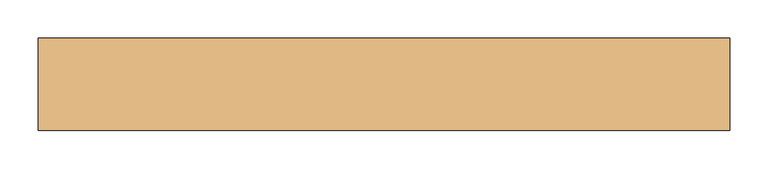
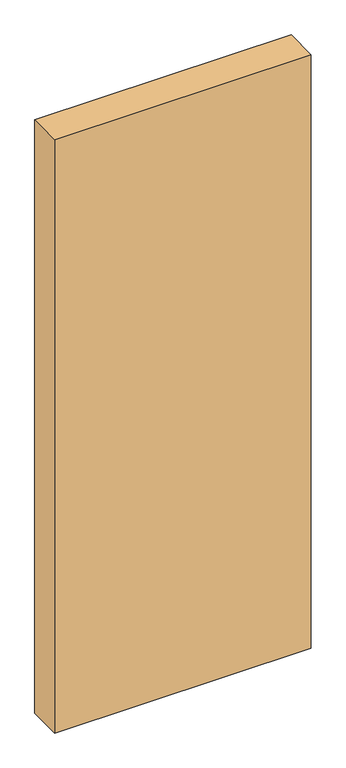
"""IFC4 building model written with IfcOpenShell, lengths in millimetres: door geometry, Dr_Проем-Простой : ДВ."""

import ifcopenshell
import ifcopenshell.guid

model = None  # the IFC model being written
_history = None  # IfcOwnerHistory: only IFC2X3 demands one
_inside = {}  # id of a spatial element -> (the spatial element, [elements in it])
_under = {}  # id of a project, library or spatial element -> (it, [spatial elements below it])
_declared = {}  # id of a project -> (the project, [libraries it declares])
_typed = {}  # id of a type object -> (the type object, [elements of that type])
_made_of = {}  # id of a material, layer set ... -> (it, [elements and type objects made of it])


def new_model(schema):
    """Start an empty IFC model of exactly this schema.

    Asked for "IFC4X3", IfcOpenShell would pick the latest addendum, in which some entities
    have other attributes; the version numbers below select the first issue.
    IFC2X3 requires an IfcOwnerHistory on every rooted entity: one is made here for all.
    """
    global model, _history
    if schema == "IFC4X3":
        model = ifcopenshell.file(schema_version=(4, 3, 0, 0))
    else:
        model = ifcopenshell.file(schema=schema)
    _inside.clear()
    _under.clear()
    _declared.clear()
    _typed.clear()
    _made_of.clear()
    _history = None
    if model.schema == "IFC2X3":
        org = make("IfcOrganization", Name="unknown")
        user = make(
            "IfcPersonAndOrganization",
            ThePerson=make("IfcPerson", FamilyName="unknown"),
            TheOrganization=org,
        )
        app = make(
            "IfcApplication",
            ApplicationDeveloper=org,
            Version="unknown",
            ApplicationFullName="unknown",
            ApplicationIdentifier="unknown",
        )
        _history = make(
            "IfcOwnerHistory",
            OwningUser=user,
            OwningApplication=app,
            ChangeAction="ADDED",
            CreationDate=0,
        )
    return model


def make(cls, **values):
    """One entity of the class cls with the attributes given. An attribute that is None is left unset."""
    return model.create_entity(
        cls, **{name: value for name, value in values.items() if value is not None}
    )


def rooted(cls, **values):
    """An entity with a GlobalId (a new one), such as an element, a storey or a relation."""
    return make(cls, GlobalId=ifcopenshell.guid.new(), OwnerHistory=_history, **values)


def si_unit(unit_type, name, prefix=None):
    """IfcSIUnit, for example si_unit("LENGTHUNIT", "METRE", prefix="MILLI")."""
    return make("IfcSIUnit", UnitType=unit_type, Prefix=prefix, Name=name)


def assignment(units):
    """IfcUnitAssignment: the units of a project."""
    return None if units is None else make("IfcUnitAssignment", Units=units)


def point(xyz):
    """IfcCartesianPoint."""
    return None if xyz is None else make("IfcCartesianPoint", Coordinates=xyz)


def direction(xyz):
    """IfcDirection."""
    return None if xyz is None else make("IfcDirection", DirectionRatios=xyz)


def frame(location, z_axis=None, x_axis=None):
    """IfcAxis2Placement3D, a coordinate frame: its origin and axes. An axis left out is left unset."""
    return make(
        "IfcAxis2Placement3D",
        Location=point(location),
        Axis=direction(z_axis),
        RefDirection=direction(x_axis),
    )


def origin():
    """The frame at (0, 0, 0) with its axes left unset."""
    return frame((0.0, 0.0, 0.0))


def place(relative_to, where):
    """IfcLocalPlacement: puts the frame where relative to a parent placement (None: the world)."""
    return make(
        "IfcLocalPlacement", PlacementRelTo=relative_to, RelativePlacement=where
    )


def context(
    kind, dimensions, precision=None, world=None, true_north=None, identifier=None
):
    """IfcGeometricRepresentationContext, for example the 3D "Model" context."""
    return make(
        "IfcGeometricRepresentationContext",
        ContextIdentifier=identifier,
        ContextType=kind,
        CoordinateSpaceDimension=dimensions,
        Precision=precision,
        WorldCoordinateSystem=world,
        TrueNorth=true_north,
    )


def project(units=None, contexts=None):
    """IfcProject with its units and contexts."""
    return rooted(
        "IfcProject",
        Name="project",
        RepresentationContexts=contexts,
        UnitsInContext=assignment(units),
    )


def spatial(cls, under=None, at=None, **own):
    """A site, building, storey or space (cls), placed at a placement, below another one or the project."""
    s = rooted(cls, ObjectPlacement=at, **own)
    if under is not None:
        _under.setdefault(under.id(), (under, []))[1].append(s)
    return s


def polyline(points):
    """IfcPolyline through the points."""
    return make("IfcPolyline", Points=[point(p) for p in points])


def outline(outer, holes=None, kind="AREA"):
    """IfcArbitraryClosedProfileDef: a profile drawn as a closed curve; with holes, ...WithVoids."""
    if holes is None:
        return make("IfcArbitraryClosedProfileDef", ProfileType=kind, OuterCurve=outer)
    return make(
        "IfcArbitraryProfileDefWithVoids",
        ProfileType=kind,
        OuterCurve=outer,
        InnerCurves=holes,
    )


def extrude(swept, where, along, depth):
    """IfcExtrudedAreaSolid: the profile swept, set in the frame where, extruded along a direction by depth."""
    return make(
        "IfcExtrudedAreaSolid",
        SweptArea=swept,
        Position=where,
        ExtrudedDirection=direction(along),
        Depth=depth,
    )


def shape(context_of_items, identifier, shape_type, items):
    """IfcShapeRepresentation: the items that make up one representation, for example the "Body"."""
    return make(
        "IfcShapeRepresentation",
        ContextOfItems=context_of_items,
        RepresentationIdentifier=identifier,
        RepresentationType=shape_type,
        Items=items,
    )


def source(mapping_origin, context_of_items, identifier, shape_type, items):
    """IfcRepresentationMap: a shape defined once, which mapped items show again and again."""
    return make(
        "IfcRepresentationMap",
        MappingOrigin=mapping_origin,
        MappedRepresentation=shape(context_of_items, identifier, shape_type, items),
    )


def transform(
    local_origin,
    x_axis=None,
    y_axis=None,
    z_axis=None,
    scale=None,
    scale2=None,
    scale3=None,
    uniform=True,
):
    """IfcCartesianTransformationOperator3D, or its non-uniform kind. x_axis, y_axis, z_axis: its Axis1, 2, 3."""
    if uniform:
        return make(
            "IfcCartesianTransformationOperator3D",
            Axis1=direction(x_axis),
            Axis2=direction(y_axis),
            LocalOrigin=point(local_origin),
            Scale=scale,
            Axis3=direction(z_axis),
        )
    return make(
        "IfcCartesianTransformationOperator3DnonUniform",
        Axis1=direction(x_axis),
        Axis2=direction(y_axis),
        LocalOrigin=point(local_origin),
        Scale=scale,
        Axis3=direction(z_axis),
        Scale2=scale2,
        Scale3=scale3,
    )


def mapped(mapping_source, mapping_target):
    """IfcMappedItem: shows the shape of a source again, moved by a transform."""
    return make(
        "IfcMappedItem", MappingSource=mapping_source, MappingTarget=mapping_target
    )


def made_of(thing, what):
    """Note that an element or type object is made of a material, layer set ...; save() writes the relation."""
    if what is not None:
        _made_of.setdefault(what.id(), (what, []))[1].append(thing)
    return thing


def element(
    cls,
    number,
    at=None,
    inside=None,
    cuts=None,
    type_object=None,
    material=None,
    context=None,
    identifier="Body",
    shape_type=None,
    held_by="IfcProductDefinitionShape",
    body=None,
    shapes=None,
    **own,
):
    """One element of the class cls, such as IfcWall. Its Tag is "e" and its number.

    at: its placement. inside: the storey or other place that contains it. cuts: it is an
    opening in that element (IfcRelVoidsElement). A single representation is given by context,
    identifier, shape_type and body (its items); several are given by shapes. held_by: the class
    of the entity that holds the representations. save() writes the other relations.
    """
    e = rooted(cls, Tag="e%d" % number, ObjectPlacement=at, **own)
    if body is not None:
        shapes = [shape(context, identifier, shape_type, body)]
    if shapes is not None:
        e.Representation = make(held_by, Representations=shapes)
    if inside is not None:
        _inside.setdefault(inside.id(), (inside, []))[1].append(e)
    if cuts is not None:
        rooted(
            "IfcRelVoidsElement", RelatingBuildingElement=cuts, RelatedOpeningElement=e
        )
    if type_object is not None:
        _typed.setdefault(type_object.id(), (type_object, []))[1].append(e)
    return made_of(e, material)


def aggregate(whole, parts):
    """IfcRelAggregates: a whole, such as a stair, and the parts it consists of."""
    return rooted("IfcRelAggregates", RelatingObject=whole, RelatedObjects=parts)


def save(model, path):
    """Write the relations noted so far, then the file.

    IfcRelAggregates (storeys below a building ...), IfcRelContainedInSpatialStructure (elements
    in a storey), IfcRelDefinesByType, IfcRelAssociatesMaterial and IfcRelDeclares: one each for
    every whole, place, type object, material and project.
    """
    for whole, parts in _under.values():
        aggregate(whole, parts)
    for where, things in _inside.values():
        rooted(
            "IfcRelContainedInSpatialStructure",
            RelatedElements=things,
            RelatingStructure=where,
        )
    for kind, things in _typed.values():
        rooted("IfcRelDefinesByType", RelatedObjects=things, RelatingType=kind)
    for what, things in _made_of.values():
        rooted("IfcRelAssociatesMaterial", RelatedObjects=things, RelatingMaterial=what)
    for by, libraries in _declared.values():
        rooted("IfcRelDeclares", RelatingContext=by, RelatedDefinitions=libraries)
    model.write(path)


def door_9326eacb(model_context):
    return source(origin(), model_context, "Body", "SweptSolid", [
        extrude(outline(polyline([(655.3230163, -60.0), (-244.6769837, -60.0), (-244.6769837, 60.0), (655.3230163, 60.0), (655.3230163, -60.0)])), frame((0.0, 0.0, -100.0), z_axis=(0.0, 0.0, 1.0), x_axis=(1.0, 0.0, 0.0)), (0.0, 0.0, 1.0), 2200.0),
    ])


if __name__ == "__main__":
    model = new_model("IFC4")
    model_context = context("Model", 3, world=origin())
    ifc_project = project(units=[si_unit("LENGTHUNIT", "METRE", prefix="MILLI")], contexts=[model_context])
    site = spatial("IfcSite", under=ifc_project)
    building = spatial("IfcBuilding", under=site)
    placement = place(None, origin())
    door_shape = door_9326eacb(model_context)
    element("IfcDoor", 1, ObjectType="Dr_Проем-Простой : ДВ", at=placement, inside=building, context=model_context, shape_type="MappedRepresentation", body=[
        mapped(door_shape, transform((0.0, 0.0, 0.0), x_axis=(1.0, 0.0, 0.0), y_axis=(0.0, 1.0, 0.0), z_axis=(0.0, 0.0, 1.0))),
    ])
    save(model, "model.ifc")
